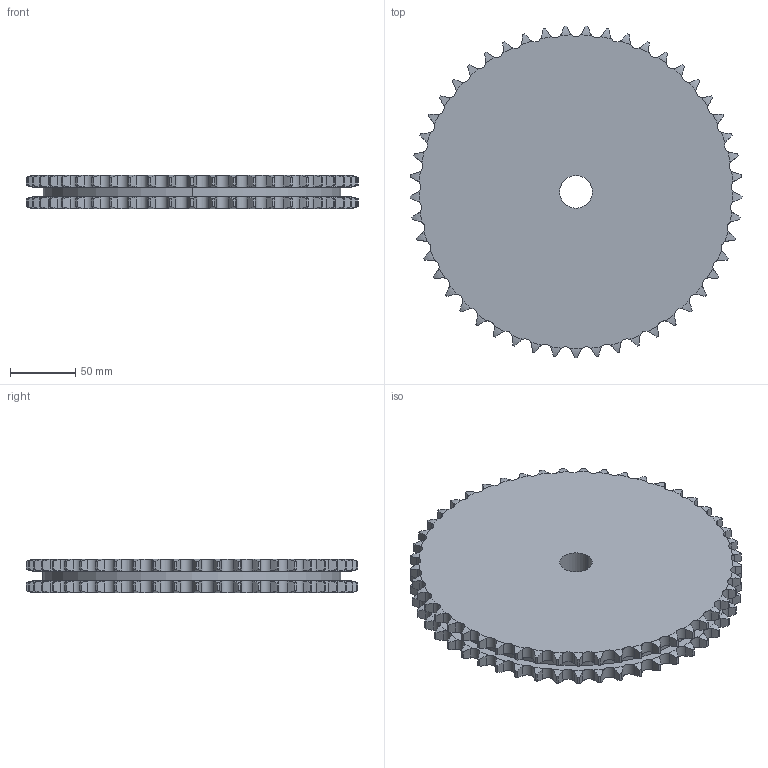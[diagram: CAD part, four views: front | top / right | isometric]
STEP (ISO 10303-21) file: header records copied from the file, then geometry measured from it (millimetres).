
FILE_DESCRIPTION((''),'2;1');
FILE_NAME('500-302-0049_PRT','2021-02-12T',('Brieden'),('Brieden'),'PRO/ENGINEER BY PARAMETRIC TECHNOLOGY CORPORATION, 2010160','PRO/ENGINEER BY PARAMETRIC TECHNOLOGY CORPORATION, 2010160','');
FILE_SCHEMA(('AUTOMOTIVE_DESIGN { 1 0 10303 214 1 1 1 1 }'));
Length unit declared in the file: millimetre
Products named in the file (1): 500-302-0049_PRT
Bounding box: 253.93 x 253.8 x 25.5 mm (x, y, z)
Volume: 1131765.2 mm3; surface area: 131532.9 mm2
Topology: 1 solids, 1 shells, 596 faces, 1776 edges, 1184 vertices
Faces by surface type: cylinder 396, torus 196, plane 4
Entity records: 29396 total; most frequent: CARTESIAN_POINT 8945, ORIENTED_EDGE 3552, DIRECTION 2780, PRESENTATION_STYLE_ASSIGNMENT 1777, STYLED_ITEM 1777, CURVE_STYLE 1776, EDGE_CURVE 1776, AXIS2_PLACEMENT_3D 1192
